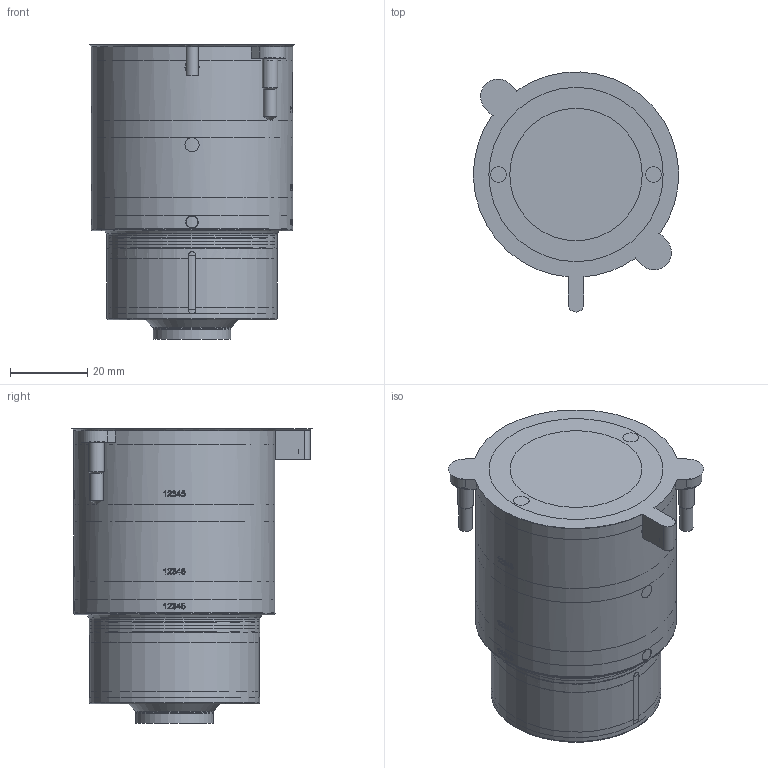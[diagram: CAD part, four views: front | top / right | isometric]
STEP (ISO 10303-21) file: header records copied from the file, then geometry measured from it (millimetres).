
FILE_DESCRIPTION(/* description */ (''),/* implementation_level */ '2;1');
FILE_NAME(/* name */ '83-007-019_CoolingInsertAssemblyTT-IT-OTX19-76.stp',/* time_stamp */ '2021-09-22T15:40:07+12:00',/* author */ (''),/* organization */ (''),/* preprocessor_version */ 'ST-DEVELOPER v16.7',/* originating_system */ 'SIEMENS PLM Software NX 12.0',/* authorisation */ '');
FILE_SCHEMA (('AP203_CONFIGURATION_CONTROLLED_3D_DESIGN_OF_MECHANICAL_PARTS_AND_ASSEMBLIES_MIM_LF { 1 0 10303 403 2 1 2}'));
Length unit declared in the file: millimetre
Products named in the file (1): Matt09681A55syte
Bounding box: 52.96 x 61.97 x 76 mm (x, y, z)
Volume: 211010.3 mm3; surface area: 47718.4 mm2
Topology: 15 solids, 15 shells, 910 faces, 2275 edges, 1494 vertices
Faces by surface type: plane 389, cylinder 323, extrusion 89, cone 59, torus 36, revolution 8, bspline 6
Full cylindrical faces by diameter (mm): 0.421 x3, 1.2 x1, 3 x5, 3.02 x5, 3.05 x8, 3.5 x2, 4 x2, 7.6 x2, 15.01 x1, 19.795 x1, 19.995 x1, 20.01 x1, 29.2 x2, 33 x1, 33.2 x2, 34.4 x2, 40.7 x1, 40.8 x1, 43.8 x1, 43.94 x2, 44 x2, 46 x3, 51.8 x3, 52 x1
Entity records: 38649 total; most frequent: CARTESIAN_POINT 17886, ORIENTED_EDGE 4104, DIRECTION 3727, EDGE_CURVE 2052, VERTEX_POINT 1441, AXIS2_PLACEMENT_3D 1350, EDGE_LOOP 1170, VECTOR 1019
